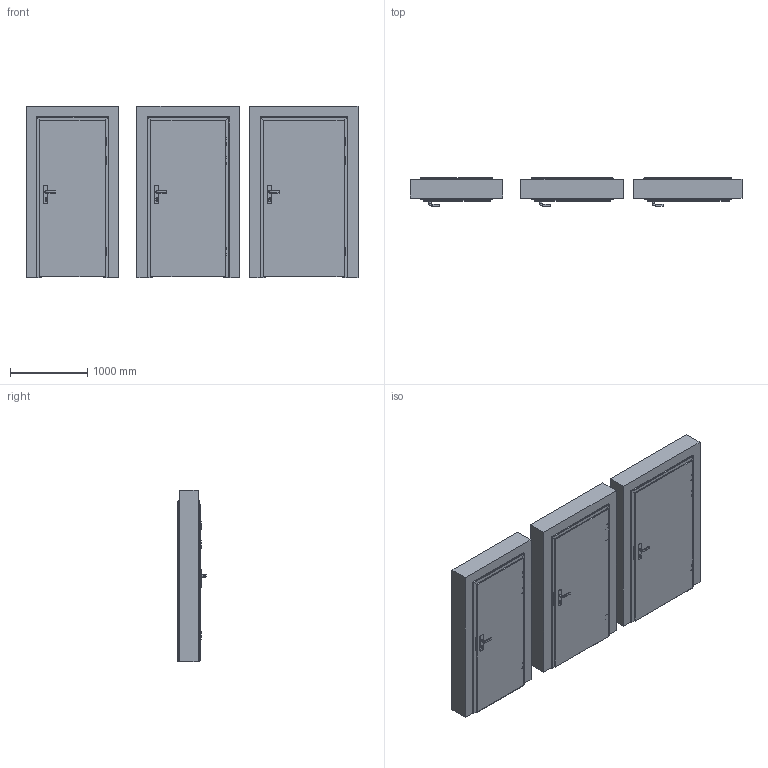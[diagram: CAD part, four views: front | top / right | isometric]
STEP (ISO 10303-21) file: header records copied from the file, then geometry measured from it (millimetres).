
FILE_DESCRIPTION(/* description */ (''),/* implementation_level */ '2;1');
FILE_NAME(/* name */ '050080_A_2-Drzwi akustyczne SILENCE 37dB na ościeżnicy Projekt Premium..stp',/* time_stamp */ '2024-06-25T09:57:54+02:00',/* author */ (''),/* organization */ (''),/* preprocessor_version */ 'ST-DEVELOPER v16',/* originating_system */ 'SIEMENS PLM Software NX 11.0',/* authorisation */ '');
FILE_SCHEMA (('AUTOMOTIVE_DESIGN { 1 0 10303 214 3 1 1 1 }'));
Products named in the file (1): bkni5CECC368mkmv
Bounding box: 4306 x 364.45 x 2220 mm (x, y, z)
Volume: 966287189.9 mm3; surface area: 65852388.9 mm2
Topology: 237 solids, 237 shells, 6897 faces, 18399 edges, 11901 vertices
Faces by surface type: plane 4452, cylinder 1377, bspline 696, cone 156, torus 108, sphere 108
Full cylindrical faces by diameter (mm): 4 x3, 6 x18, 7.4 x24, 7.8 x9, 8 x63, 10 x12, 13.5 x18, 15 x45, 17 x3, 18 x6, 20.5 x24, 30 x6
Entity records: 223494 total; most frequent: CARTESIAN_POINT 54496, ORIENTED_EDGE 35484, DIRECTION 32312, EDGE_CURVE 17742, LINE 13008, VECTOR 13008, VERTEX_POINT 11748, AXIS2_PLACEMENT_3D 9652
